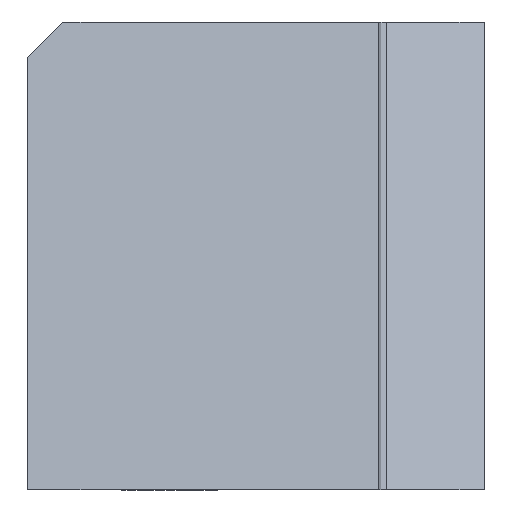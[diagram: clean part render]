
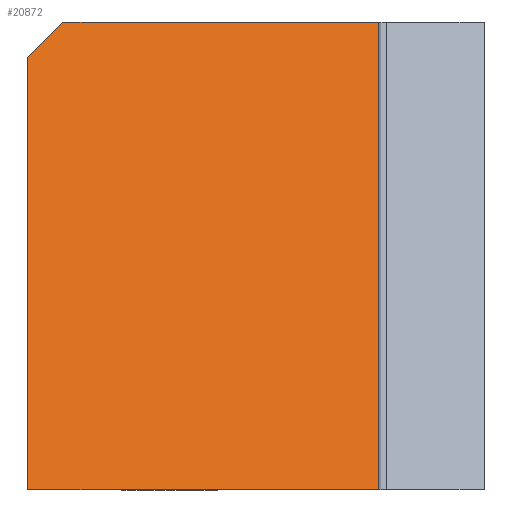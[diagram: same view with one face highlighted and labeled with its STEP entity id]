
A CAD part, left-side view. The second image highlights one B-rep face of the part: STEP entity #20872.
In plain terms, the highlighted planar face has unit normal (-0.943, 0, 0.334).
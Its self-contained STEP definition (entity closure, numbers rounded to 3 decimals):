
#1951=ORIENTED_EDGE('',*,*,#6467,.F.);
#1952=ORIENTED_EDGE('',*,*,#6468,.T.);
#1953=ORIENTED_EDGE('',*,*,#5420,.F.);
#1954=ORIENTED_EDGE('',*,*,#6469,.F.);
#1955=ORIENTED_EDGE('',*,*,#6014,.F.);
#5420=EDGE_CURVE('',#7678,#7679,#9159,.T.);
#6014=EDGE_CURVE('',#8271,#8273,#9564,.T.);
#6467=EDGE_CURVE('',#8725,#8271,#9867,.T.);
#6468=EDGE_CURVE('',#8725,#7679,#9868,.T.);
#6469=EDGE_CURVE('',#8273,#7678,#9869,.T.);
#7678=VERTEX_POINT('',#26689);
#7679=VERTEX_POINT('',#26690);
#8271=VERTEX_POINT('',#28811);
#8273=VERTEX_POINT('',#28814);
#8725=VERTEX_POINT('',#29720);
#9159=LINE('',#26688,#10923);
#9564=LINE('',#28813,#11328);
#9867=LINE('',#29719,#11631);
#9868=LINE('',#29721,#11632);
#9869=LINE('',#29722,#11633);
#10923=VECTOR('',#22626,1000.);
#11328=VECTOR('',#23053,1000.);
#11631=VECTOR('',#23658,1000.);
#11632=VECTOR('',#23659,1000.);
#11633=VECTOR('',#23660,1000.);
#12651=EDGE_LOOP('',(#1951,#1952,#1953,#1954,#1955));
#13595=FACE_BOUND('',#12651,.T.);
#14477=PLANE('',#21879);
#20872=ADVANCED_FACE('',(#13595),#14477,.T.);
#21879=AXIS2_PLACEMENT_3D('',#29718,#23656,#23657);
#22626=DIRECTION('',(0.,1.,0.));
#23053=DIRECTION('',(0.,-1.,0.));
#23656=DIRECTION('',(-0.942,0.,0.334));
#23657=DIRECTION('',(0.,1.,0.));
#23658=DIRECTION('',(0.243,-0.686,0.686));
#23659=DIRECTION('',(-0.334,0.,-0.942));
#23660=DIRECTION('',(-0.334,0.,-0.942));
#26688=CARTESIAN_POINT('',(-14.187,-30.,-40.));
#26689=CARTESIAN_POINT('',(-14.187,-30.,-40.));
#26690=CARTESIAN_POINT('',(-14.187,0.,-40.));
#28811=CARTESIAN_POINT('',(0.,-3.,0.));
#28813=CARTESIAN_POINT('',(0.,0.,0.));
#28814=CARTESIAN_POINT('',(0.,-30.,0.));
#29718=CARTESIAN_POINT('',(0.,-30.,0.));
#29719=CARTESIAN_POINT('',(2.101,-8.923,5.923));
#29720=CARTESIAN_POINT('',(-1.064,0.,-3.));
#29721=CARTESIAN_POINT('',(0.,0.,0.));
#29722=CARTESIAN_POINT('',(0.,-30.,0.));
